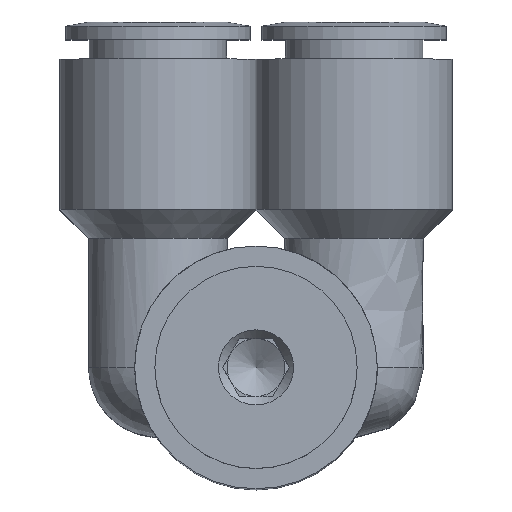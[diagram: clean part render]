
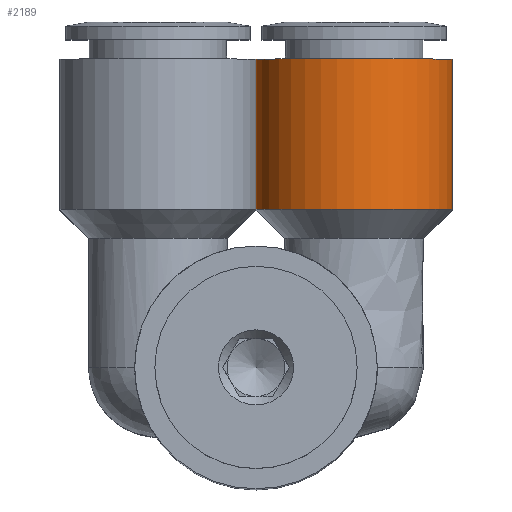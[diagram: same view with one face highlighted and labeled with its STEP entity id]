
A CAD part, top view. The second image highlights one B-rep face of the part: STEP entity #2189.
In plain terms, the highlighted free-form (B-spline) face has degree [1, 2] with [2, 9] control points.
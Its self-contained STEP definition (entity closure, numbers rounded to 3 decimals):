
#2124=CARTESIAN_POINT('',(0.,13.7,40.0));
#2125=VERTEX_POINT('',#2124);
#2126=CARTESIAN_POINT('',(8.5,13.7,40.0));
#2127=DIRECTION('',(0.0,-1.0,0.0));
#2128=DIRECTION('',(1.0,0.0,0.0));
#2129=AXIS2_PLACEMENT_3D('',#2126,#2127,#2128);
#2130=CIRCLE('',#2129,8.5);
#2131=EDGE_CURVE('',#2125,#2125,#2130,.T.);
#2139=CARTESIAN_POINT('',(0.,13.7,40.0));
#2140=CARTESIAN_POINT('',(0.,26.7,40.0));
#2141=CARTESIAN_POINT('',(0.,13.7,31.5));
#2142=CARTESIAN_POINT('',(0.,26.7,31.5));
#2143=CARTESIAN_POINT('',(8.5,13.7,31.5));
#2144=CARTESIAN_POINT('',(8.5,26.7,31.5));
#2145=CARTESIAN_POINT('',(17.,13.7,31.5));
#2146=CARTESIAN_POINT('',(17.,26.7,31.5));
#2147=CARTESIAN_POINT('',(17.,13.7,40.0));
#2148=CARTESIAN_POINT('',(17.,26.7,40.0));
#2149=CARTESIAN_POINT('',(17.,13.7,48.5));
#2150=CARTESIAN_POINT('',(17.,26.7,48.5));
#2151=CARTESIAN_POINT('',(8.5,13.7,48.5));
#2152=CARTESIAN_POINT('',(8.5,26.7,48.5));
#2153=CARTESIAN_POINT('',(0.,13.7,48.5));
#2154=CARTESIAN_POINT('',(0.,26.7,48.5));
#2155=CARTESIAN_POINT('',(0.,13.7,40.0));
#2156=CARTESIAN_POINT('',(0.,26.7,40.0));
#2164=(BOUNDED_SURFACE()B_SPLINE_SURFACE(1,2,((#2139,#2141,#2143,#2145,#2147,#2149,#2151,#2153,#2155),(#2140,#2142,#2144,#2146,#2148,#2150,#2152,#2154,#2156)),.UNSPECIFIED.,.F.,.T.,.U.)B_SPLINE_SURFACE_WITH_KNOTS((2,2),(3,2,2,2,3),(-0.765,0.765),(0.0,13.352,26.704,40.055,53.407),.UNSPECIFIED.)GEOMETRIC_REPRESENTATION_ITEM()RATIONAL_B_SPLINE_SURFACE(((1.0,0.707,1.0,0.707,1.0,0.707,1.0,0.707,1.0),(1.0,0.707,1.0,0.707,1.0,0.707,1.0,0.707,1.0)))REPRESENTATION_ITEM('')SURFACE());
#2165=CARTESIAN_POINT('',(0.,26.7,40.0));
#2166=VERTEX_POINT('',#2165);
#2167=CARTESIAN_POINT('',(8.5,26.7,40.0));
#2168=DIRECTION('',(0.0,-1.0,0.0));
#2169=DIRECTION('',(1.0,0.0,0.0));
#2170=AXIS2_PLACEMENT_3D('',#2167,#2168,#2169);
#2171=CIRCLE('',#2170,8.5);
#2172=EDGE_CURVE('',#2166,#2166,#2171,.T.);
#2173=ORIENTED_EDGE('',*,*,#2172,.T.);
#2174=CARTESIAN_POINT('',(0.,26.7,40.0));
#2175=DIRECTION('',(0.0,-1.0,0.0));
#2176=VECTOR('',#2175,13.);
#2177=LINE('',#2174,#2176);
#2178=EDGE_CURVE('',#2166,#2125,#2177,.T.);
#2179=ORIENTED_EDGE('',*,*,#2178,.T.);
#2180=ORIENTED_EDGE('',*,*,#2131,.F.);
#2181=CARTESIAN_POINT('',(0.,26.7,40.0));
#2182=DIRECTION('',(0.0,-1.0,0.0));
#2183=VECTOR('',#2182,13.);
#2184=LINE('',#2181,#2183);
#2185=EDGE_CURVE('',#2166,#2125,#2184,.T.);
#2186=ORIENTED_EDGE('',*,*,#2185,.F.);
#2187=EDGE_LOOP('',(#2173,#2179,#2180,#2186));
#2188=FACE_OUTER_BOUND('',#2187,.T.);
#2189=ADVANCED_FACE('',(#2188),#2164,.T.);
